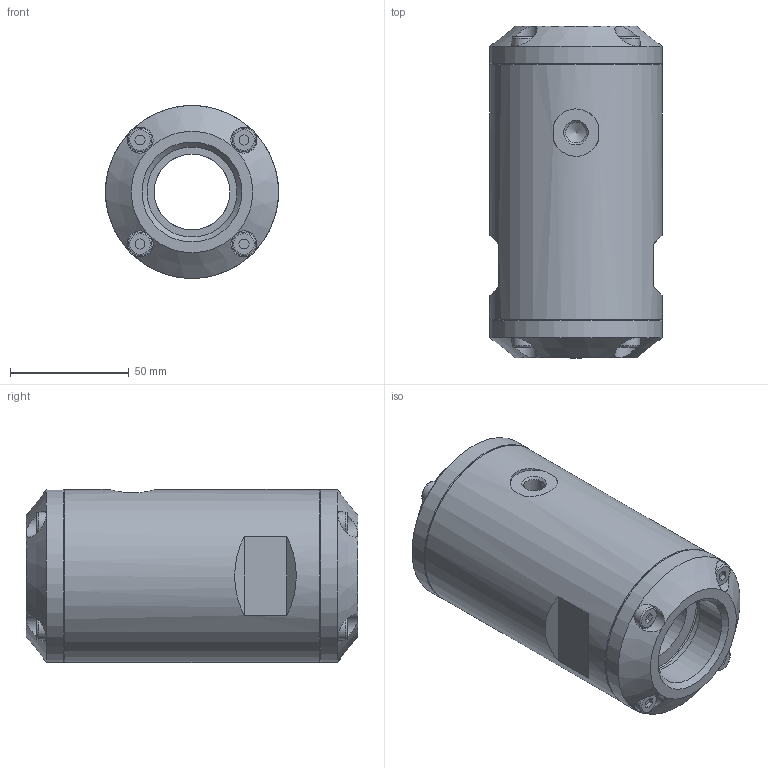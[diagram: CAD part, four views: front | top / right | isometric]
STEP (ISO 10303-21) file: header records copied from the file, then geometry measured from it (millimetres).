
FILE_DESCRIPTION(/* description */ (''),/* implementation_level */ '2;1');
FILE_NAME(/* name */ 'Serie80_QV32_assembly_VEREINFACHT.stp',/* time_stamp */ '2013-10-21T17:24:45+02:00',/* author */ (''),/* organization */ (''),/* preprocessor_version */ 'ST-DEVELOPER v11',/* originating_system */ 'SIEMENS PLM Software NX 7.5',/* authorisation */ '');
FILE_SCHEMA (('AUTOMOTIVE_DESIGN { 1 0 10303 214 1 1 1 1 }'));
Length unit declared in the file: millimetre
Products named in the file (1): memdFD780wjc
Bounding box: 73 x 140 x 73 mm (x, y, z)
Volume: 428416 mm3; surface area: 88784.8 mm2
Topology: 27 solids, 27 shells, 306 faces, 616 edges, 392 vertices
Faces by surface type: plane 143, cylinder 97, cone 36, torus 30
Full cylindrical faces by diameter (mm): 4.92 x16, 5 x8, 6 x24, 6.2 x8, 6.5 x8, 8.611 x1, 10 x8, 11 x8, 32 x3, 38.1 x2, 44.7 x2, 68.8 x2, 69.1 x2, 73 x3
Entity records: 7197 total; most frequent: DIRECTION 1270, CARTESIAN_POINT 1240, ORIENTED_EDGE 834, AXIS2_PLACEMENT_3D 558, EDGE_LOOP 518, FACE_BOUND 423, EDGE_CURVE 417, VERTEX_POINT 348
